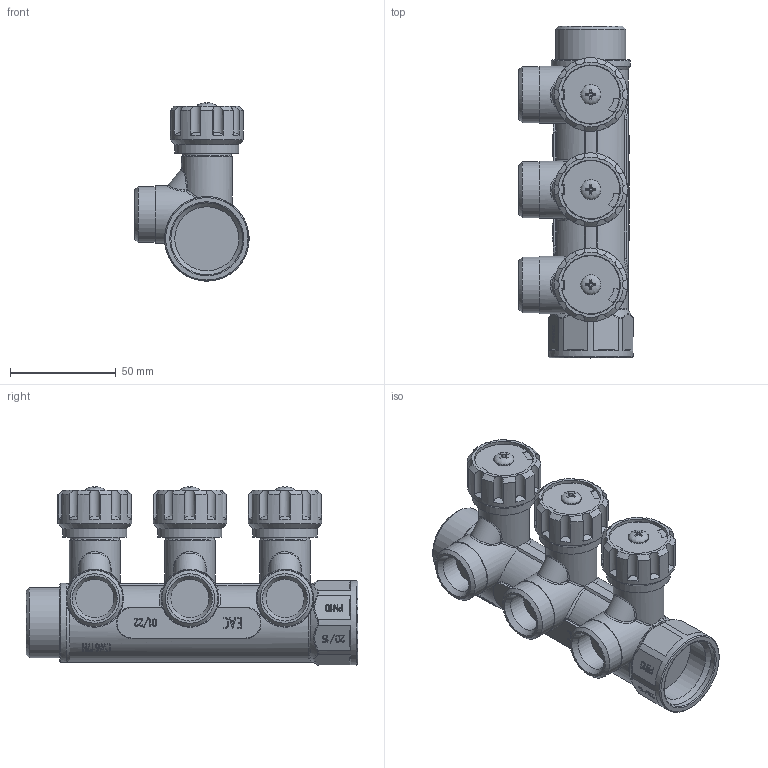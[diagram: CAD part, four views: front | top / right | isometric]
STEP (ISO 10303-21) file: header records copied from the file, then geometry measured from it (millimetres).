
FILE_DESCRIPTION(('STEP AP203'), '1');
FILE_NAME('VTc.570.NE.0603', '2024-06-18T07:20:29', ('User'), ('Vesta'), 'C3D Converter', 'C3D Toolkit', '');
FILE_SCHEMA(('CONFIG_CONTROL_DESIGN'));
Length unit declared in the file: millimetre
Products named in the file (1): ВР.622621.019.000 СБ
Bounding box: 54 x 157 x 84.28 mm (x, y, z)
Volume: 260402.4 mm3; surface area: 45547.4 mm2
Topology: 1 solids, 1 shells, 1105 faces, 3056 edges, 1996 vertices
Faces by surface type: plane 449, extrusion 338, cylinder 157, cone 89, bspline 58, torus 14
Full cylindrical faces by diameter (mm): 9.5 x3, 18.1 x3, 23 x3, 24 x3, 25 x1, 26.441 x3, 27.1 x3, 30.292 x1, 30.3 x3, 33.249 x1, 34 x1, 34.8 x3, 37.5 x1, 40 x1
Entity records: 53244 total; most frequent: CARTESIAN_POINT 27406, ORIENTED_EDGE 5968, DIRECTION 4054, EDGE_CURVE 2984, VERTEX_POINT 1996, VECTOR 1796, LINE 1458, B_SPLINE_CURVE_WITH_KNOTS 1359
